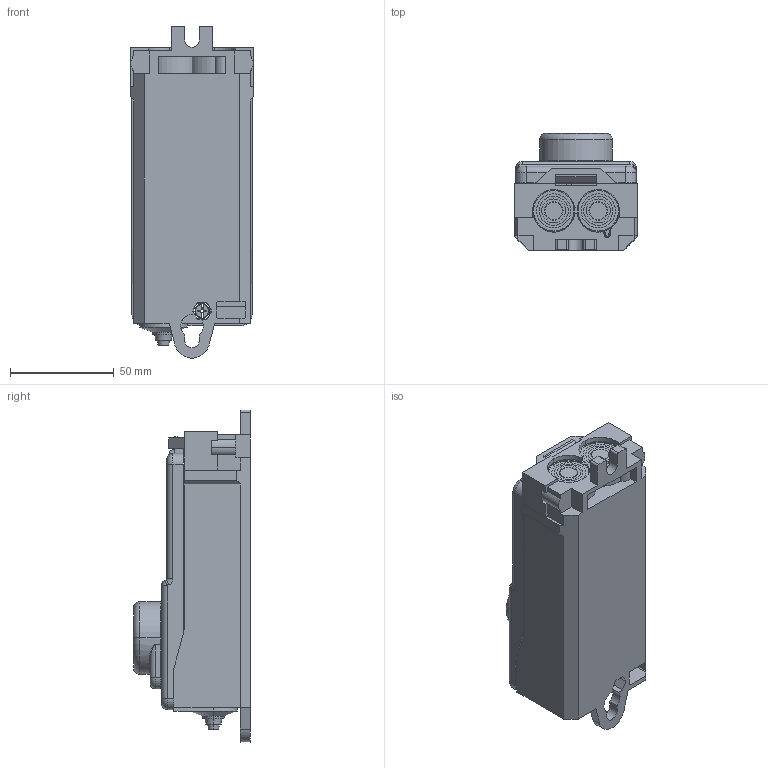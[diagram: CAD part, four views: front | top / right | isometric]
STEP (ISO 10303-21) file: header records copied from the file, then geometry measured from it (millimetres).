
FILE_DESCRIPTION (( 'STEP AP203' ), '1' );
FILE_NAME ('3D - HSW1194 Außenkontur.STEP', '2019-07-05T07:39:07', ( '' ), ( '' ), 'SwSTEP 2.0', 'SolidWorks 2013', '' );
FILE_SCHEMA (( 'CONFIG_CONTROL_DESIGN' ));
Length unit declared in the file: millimetre
Products named in the file (1): 3D - HSW1194 Außenkontur
Bounding box: 59 x 56.4 x 160.17 mm (x, y, z)
Surface area: 41174.4 mm2 (no closed solid volume)
Topology: 0 solids, 20 shells, 725 faces, 2265 edges, 1581 vertices
Faces by surface type: plane 452, bspline 140, cylinder 92, torus 28, cone 11, sphere 2
Entity records: 33244 total; most frequent: CARTESIAN_POINT 14034, ORIENTED_EDGE 3988, DIRECTION 3440, EDGE_CURVE 2265, VERTEX_POINT 1581, LINE 1562, VECTOR 1562, AXIS2_PLACEMENT_3D 939
